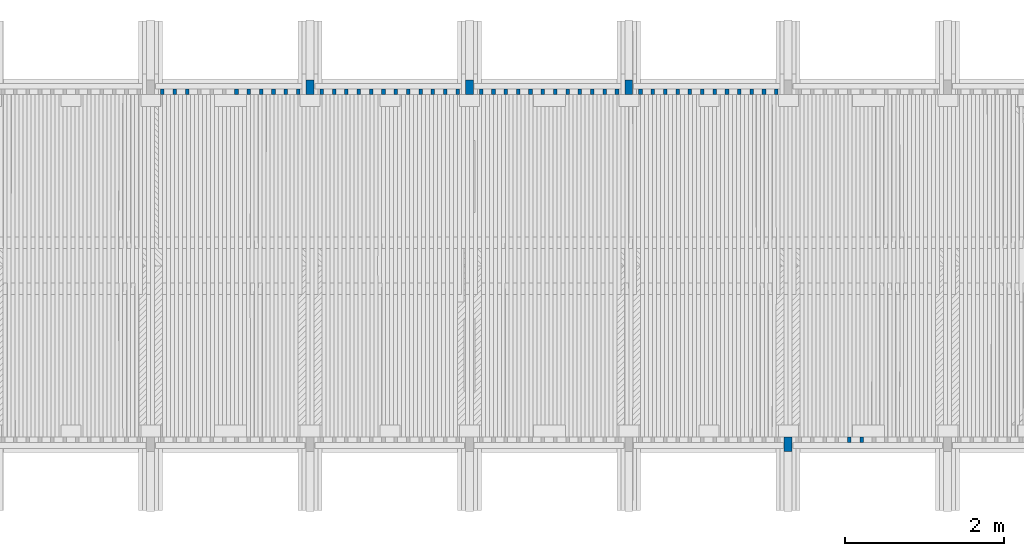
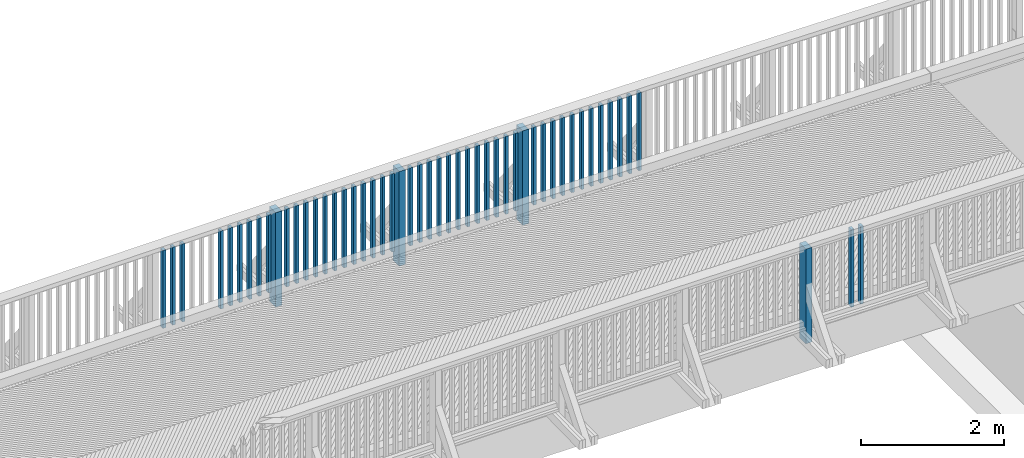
# One storey, part 9 of 53: 51 columns.
"""IFC2X3 building model written with IfcOpenShell, lengths in millimetres."""

from ifc_helpers import new_model, si_unit, frame, origin_with_axes, place, context, subcontext, project, spatial, faceted_brep, material, type_object, element, save


model = new_model("IFC2X3")

# Units and contexts
model_context = context("Model", 3, precision=1e-05, world=origin_with_axes())
body_context = subcontext(model_context, "Body", "Model", "MODEL_VIEW")
ifc_project = project(units=[si_unit("LENGTHUNIT", "METRE", prefix="MILLI"), si_unit("AREAUNIT", "SQUARE_METRE"), si_unit("VOLUMEUNIT", "CUBIC_METRE"), si_unit("MASSUNIT", "GRAM", prefix="KILO"), si_unit("TIMEUNIT", "SECOND"), si_unit("PLANEANGLEUNIT", "RADIAN"), si_unit("SOLIDANGLEUNIT", "STERADIAN"), si_unit("THERMODYNAMICTEMPERATUREUNIT", "DEGREE_CELSIUS"), si_unit("LUMINOUSINTENSITYUNIT", "LUMEN")], contexts=[model_context])

# Site, building, storey
site_placement = place(None, origin_with_axes())
site = spatial("IfcSite", under=ifc_project, at=site_placement, Name="Undefined", CompositionType="ELEMENT")
building_placement = place(site_placement, origin_with_axes())
building = spatial("IfcBuilding", under=site, at=building_placement, Name="Undefined", CompositionType="ELEMENT")
storey_placement = place(building_placement, origin_with_axes())
storey = spatial("IfcBuildingStorey", under=building, at=storey_placement, Name="Undefined", CompositionType="ELEMENT", Elevation=0.0)

# Columns
ifc_material = material(Name="TIMBER/Timber_Undefined")
column_type_1 = type_object("IfcColumnType", Name="180*100", PredefinedType="NOTDEFINED")
for number, where, z_axis, x_axis in (
    (1, (10000.0000678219, 44604.9879081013, 2939.97693042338), (0.0, -1.0, 0.0), (0.0, 0.0, 1.0)),
    (2, (8000.00006782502, 44604.9879081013, 2943.29124390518), (0.0, -1.0, 0.0), (0.0, 0.0, 1.0)),
    (3, (6000.00006782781, 44604.9879081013, 2939.97693031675), (0.0, -1.0, 0.0), (0.0, 0.0, 1.0)),
    (4, (12000.0000678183, 40125.0120918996, 2930.03388065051), (0.0, 1.0, 0.0), (0.0, 0.0, 1.0)),
):
    element("IfcColumn", number, at=place(storey_placement, frame(where, z_axis=z_axis, x_axis=x_axis)), inside=storey, type_object=column_type_1, material=ifc_material, Name="KAIDEPYLVÄS", ObjectType="180*100", context=body_context, shape_type="Brep", body=[
        faceted_brep([(0.0, 50.0, -89.9999999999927), (0.0, 50.0, 90.0), (1620.0, 50.0, 90.0), (1620.0, 50.0, -90.0), (0.0, -49.9999999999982, 90.0000000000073), (1620.0, -50.0, 90.0), (-3.63797880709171e-12, -49.9999999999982, -90.0), (1620.0, -50.0, -90.0)], [[[0, 1, 2, 3]], [[1, 4, 5, 2]], [[4, 6, 7, 5]], [[6, 0, 3, 7]], [[5, 7, 3, 2]], [[6, 4, 1, 0]]]),
    ])
column_type_2 = type_object("IfcColumnType", Name="70*45", PredefinedType="NOTDEFINED")
column_1_placement = place(storey_placement, frame((11852.5000007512, 44549.9879080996, 3109.68000000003), z_axis=(0.0, 1.0, 0.0), x_axis=(0.0, 0.0, 1.0)))
element("IfcColumn", 5, at=column_1_placement, inside=storey, type_object=column_type_2, material=ifc_material, Name="BEAM", ObjectType="70*45", context=body_context, shape_type="Brep", body=[
    faceted_brep([(105.745412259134, 22.5, -35.0), (105.745412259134, 22.5, 35.0), (1440.74637076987, 22.5, 35.0), (1440.74637076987, 22.5, -35.0), (105.980905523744, -22.5, 35.0), (1440.98186403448, -22.5, 35.0), (105.980905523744, -22.5, -35.0), (1440.98186403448, -22.5, -35.0)], [[[0, 1, 2, 3]], [[1, 4, 5, 2]], [[4, 6, 7, 5]], [[6, 0, 3, 7]], [[5, 7, 3, 2]], [[6, 4, 1, 0]]]),
])
column_2_placement = place(storey_placement, frame((11697.5000007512, 44549.9879080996, 3109.68000000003), z_axis=(0.0, 1.0, 0.0), x_axis=(0.0, 0.0, 1.0)))
element("IfcColumn", 6, at=column_2_placement, inside=storey, type_object=column_type_2, material=ifc_material, Name="BEAM", ObjectType="70*45", context=body_context, shape_type="Brep", body=[
    faceted_brep([(106.556555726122, 22.5, -35.0), (106.556555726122, 22.5, 35.0), (1441.55751423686, 22.5, 35.0), (1441.55751423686, 22.5, -35.0), (106.792048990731, -22.5, 35.0), (1441.79300750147, -22.5, 35.0), (106.792048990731, -22.5, -35.0), (1441.79300750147, -22.5, -35.0)], [[[0, 1, 2, 3]], [[1, 4, 5, 2]], [[4, 6, 7, 5]], [[6, 0, 3, 7]], [[5, 7, 3, 2]], [[6, 4, 1, 0]]]),
])
column_3_placement = place(storey_placement, frame((11542.5000007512, 44549.9879080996, 3109.68000000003), z_axis=(0.0, 1.0, 0.0), x_axis=(0.0, 0.0, 1.0)))
element("IfcColumn", 7, at=column_3_placement, inside=storey, type_object=column_type_2, material=ifc_material, Name="BEAM", ObjectType="70*45", context=body_context, shape_type="Brep", body=[
    faceted_brep([(107.36769919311, 22.5, -35.0), (107.36769919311, 22.5, 35.0), (1442.36865770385, 22.5, 35.0), (1442.36865770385, 22.5, -35.0), (107.603192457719, -22.5, 35.0), (1442.60415096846, -22.5, 35.0), (107.603192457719, -22.5, -35.0), (1442.60415096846, -22.5, -35.0)], [[[0, 1, 2, 3]], [[1, 4, 5, 2]], [[4, 6, 7, 5]], [[6, 0, 3, 7]], [[5, 7, 3, 2]], [[6, 4, 1, 0]]]),
])
column_4_placement = place(storey_placement, frame((11387.5000007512, 44549.9879080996, 3109.68000000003), z_axis=(0.0, 1.0, 0.0), x_axis=(0.0, 0.0, 1.0)))
element("IfcColumn", 8, at=column_4_placement, inside=storey, type_object=column_type_2, material=ifc_material, Name="BEAM", ObjectType="70*45", context=body_context, shape_type="Brep", body=[
    faceted_brep([(108.178842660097, 22.5, -35.0), (108.178842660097, 22.5, 35.0), (1443.17980117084, 22.5, 35.0), (1443.17980117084, 22.5, -35.0), (108.414335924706, -22.5, 35.0), (1443.41529443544, -22.5, 35.0), (108.414335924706, -22.5, -35.0), (1443.41529443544, -22.5, -35.0)], [[[0, 1, 2, 3]], [[1, 4, 5, 2]], [[4, 6, 7, 5]], [[6, 0, 3, 7]], [[5, 7, 3, 2]], [[6, 4, 1, 0]]]),
])
column_5_placement = place(storey_placement, frame((11232.5000007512, 44549.9879080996, 3109.68000000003), z_axis=(0.0, 1.0, 0.0), x_axis=(0.0, 0.0, 1.0)))
element("IfcColumn", 9, at=column_5_placement, inside=storey, type_object=column_type_2, material=ifc_material, Name="BEAM", ObjectType="70*45", context=body_context, shape_type="Brep", body=[
    faceted_brep([(108.989986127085, 22.5, -35.0), (108.989986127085, 22.5, 35.0), (1443.99094463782, 22.5, 35.0), (1443.99094463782, 22.5, -35.0), (109.225479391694, -22.5, 35.0), (1444.22643790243, -22.5, 35.0), (109.225479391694, -22.5, -35.0), (1444.22643790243, -22.5, -35.0)], [[[0, 1, 2, 3]], [[1, 4, 5, 2]], [[4, 6, 7, 5]], [[6, 0, 3, 7]], [[5, 7, 3, 2]], [[6, 4, 1, 0]]]),
])
column_6_placement = place(storey_placement, frame((11077.5000007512, 44549.9879080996, 3109.68000000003), z_axis=(0.0, 1.0, 0.0), x_axis=(0.0, 0.0, 1.0)))
element("IfcColumn", 10, at=column_6_placement, inside=storey, type_object=column_type_2, material=ifc_material, Name="BEAM", ObjectType="70*45", context=body_context, shape_type="Brep", body=[
    faceted_brep([(109.801129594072, 22.5, -35.0), (109.801129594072, 22.5, 35.0), (1444.80208810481, 22.5, 35.0), (1444.80208810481, 22.5, -35.0), (110.036622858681, -22.5, 35.0), (1445.03758136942, -22.5, 35.0), (110.036622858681, -22.5, -35.0), (1445.03758136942, -22.5, -35.0)], [[[0, 1, 2, 3]], [[1, 4, 5, 2]], [[4, 6, 7, 5]], [[6, 0, 3, 7]], [[5, 7, 3, 2]], [[6, 4, 1, 0]]]),
])
column_7_placement = place(storey_placement, frame((10922.5000007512, 44549.9879080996, 3109.68000000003), z_axis=(0.0, 1.0, 0.0), x_axis=(0.0, 0.0, 1.0)))
element("IfcColumn", 11, at=column_7_placement, inside=storey, type_object=column_type_2, material=ifc_material, Name="BEAM", ObjectType="70*45", context=body_context, shape_type="Brep", body=[
    faceted_brep([(110.61227306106, 22.5, -35.0), (110.61227306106, 22.5, 35.0), (1445.6132315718, 22.5, 35.0), (1445.6132315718, 22.5, -35.0), (110.847766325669, -22.5, 35.0), (1445.84872483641, -22.5, 35.0), (110.847766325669, -22.5, -35.0), (1445.84872483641, -22.5, -35.0)], [[[0, 1, 2, 3]], [[1, 4, 5, 2]], [[4, 6, 7, 5]], [[6, 0, 3, 7]], [[5, 7, 3, 2]], [[6, 4, 1, 0]]]),
])
column_8_placement = place(storey_placement, frame((10767.5000007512, 44549.9879080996, 3109.68000000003), z_axis=(0.0, 1.0, 0.0), x_axis=(0.0, 0.0, 1.0)))
element("IfcColumn", 12, at=column_8_placement, inside=storey, type_object=column_type_2, material=ifc_material, Name="BEAM", ObjectType="70*45", context=body_context, shape_type="Brep", body=[
    faceted_brep([(111.423416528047, 22.5, -35.0), (111.423416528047, 22.5, 35.0), (1446.42437503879, 22.5, 35.0), (1446.42437503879, 22.5, -35.0), (111.658909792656, -22.5, 35.0), (1446.65986830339, -22.5, 35.0), (111.658909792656, -22.5, -35.0), (1446.65986830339, -22.5, -35.0)], [[[0, 1, 2, 3]], [[1, 4, 5, 2]], [[4, 6, 7, 5]], [[6, 0, 3, 7]], [[5, 7, 3, 2]], [[6, 4, 1, 0]]]),
])
column_9_placement = place(storey_placement, frame((10612.5000007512, 44549.9879080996, 3109.68000000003), z_axis=(0.0, 1.0, 0.0), x_axis=(0.0, 0.0, 1.0)))
element("IfcColumn", 13, at=column_9_placement, inside=storey, type_object=column_type_2, material=ifc_material, Name="BEAM", ObjectType="70*45", context=body_context, shape_type="Brep", body=[
    faceted_brep([(112.234559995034, 22.5, -35.0), (112.234559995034, 22.5, 35.0), (1447.23551850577, 22.5, 35.0), (1447.23551850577, 22.5, -35.0), (112.470053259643, -22.5, 35.0), (1447.47101177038, -22.5, 35.0), (112.470053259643, -22.5, -35.0), (1447.47101177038, -22.5, -35.0)], [[[0, 1, 2, 3]], [[1, 4, 5, 2]], [[4, 6, 7, 5]], [[6, 0, 3, 7]], [[5, 7, 3, 2]], [[6, 4, 1, 0]]]),
])
column_10_placement = place(storey_placement, frame((10457.5000007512, 44549.9879080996, 3109.68000000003), z_axis=(0.0, 1.0, 0.0), x_axis=(0.0, 0.0, 1.0)))
element("IfcColumn", 14, at=column_10_placement, inside=storey, type_object=column_type_2, material=ifc_material, Name="BEAM", ObjectType="70*45", context=body_context, shape_type="Brep", body=[
    faceted_brep([(113.045703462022, 22.5, -35.0), (113.045703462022, 22.5, 35.0), (1448.04666197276, 22.5, 35.0), (1448.04666197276, 22.5, -35.0), (113.281196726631, -22.5, 35.0), (1448.28215523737, -22.5, 35.0), (113.281196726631, -22.5, -35.0), (1448.28215523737, -22.5, -35.0)], [[[0, 1, 2, 3]], [[1, 4, 5, 2]], [[4, 6, 7, 5]], [[6, 0, 3, 7]], [[5, 7, 3, 2]], [[6, 4, 1, 0]]]),
])
column_11_placement = place(storey_placement, frame((10302.5000007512, 44549.9879080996, 3109.68000000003), z_axis=(0.0, 1.0, 0.0), x_axis=(0.0, 0.0, 1.0)))
element("IfcColumn", 15, at=column_11_placement, inside=storey, type_object=column_type_2, material=ifc_material, Name="BEAM", ObjectType="70*45", context=body_context, shape_type="Brep", body=[
    faceted_brep([(113.856846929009, 22.5, -35.0), (113.856846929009, 22.5, 35.0), (1448.85780543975, 22.5, 35.0), (1448.85780543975, 22.5, -35.0), (114.092340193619, -22.5, 35.0), (1449.09329870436, -22.5, 35.0), (114.092340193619, -22.5, -35.0), (1449.09329870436, -22.5, -35.0)], [[[0, 1, 2, 3]], [[1, 4, 5, 2]], [[4, 6, 7, 5]], [[6, 0, 3, 7]], [[5, 7, 3, 2]], [[6, 4, 1, 0]]]),
])
column_12_placement = place(storey_placement, frame((10147.5000007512, 44549.9879080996, 3109.68000000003), z_axis=(0.0, 1.0, 0.0), x_axis=(0.0, 0.0, 1.0)))
element("IfcColumn", 16, at=column_12_placement, inside=storey, type_object=column_type_2, material=ifc_material, Name="BEAM", ObjectType="70*45", context=body_context, shape_type="Brep", body=[
    faceted_brep([(114.667990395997, 22.5, -35.0), (114.667990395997, 22.5, 35.0), (1449.66894890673, 22.5, 35.0), (1449.66894890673, 22.5, -35.0), (114.903483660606, -22.5, 35.0), (1449.90444217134, -22.5, 35.0), (114.903483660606, -22.5, -35.0), (1449.90444217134, -22.5, -35.0)], [[[0, 1, 2, 3]], [[1, 4, 5, 2]], [[4, 6, 7, 5]], [[6, 0, 3, 7]], [[5, 7, 3, 2]], [[6, 4, 1, 0]]]),
])
column_13_placement = place(storey_placement, frame((9852.50000075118, 44549.9879080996, 3109.68000000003), z_axis=(0.0, 1.0, 0.0), x_axis=(0.0, 0.0, 1.0)))
element("IfcColumn", 17, at=column_13_placement, inside=storey, type_object=column_type_2, material=ifc_material, Name="BEAM", ObjectType="70*45", context=body_context, shape_type="Brep", body=[
    faceted_brep([(115.427651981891, 22.5, -35.0), (115.427651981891, 22.5, 35.0), (1450.42775848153, 22.5, 35.0), (1450.42775848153, 22.5, -35.0), (115.506148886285, -22.5, 35.0), (1450.50625538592, -22.5, 35.0), (115.506148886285, -22.5, -35.0), (1450.50625538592, -22.5, -35.0)], [[[0, 1, 2, 3]], [[1, 4, 5, 2]], [[4, 6, 7, 5]], [[6, 0, 3, 7]], [[5, 7, 3, 2]], [[6, 4, 1, 0]]]),
])
column_14_placement = place(storey_placement, frame((9697.50000075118, 44549.9879080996, 3109.68000000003), z_axis=(0.0, 1.0, 0.0), x_axis=(0.0, 0.0, 1.0)))
element("IfcColumn", 18, at=column_14_placement, inside=storey, type_object=column_type_2, material=ifc_material, Name="BEAM", ObjectType="70*45", context=body_context, shape_type="Brep", body=[
    faceted_brep([(115.698030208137, 22.5, -35.0), (115.698030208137, 22.5, 35.0), (1450.69813670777, 22.5, 35.0), (1450.69813670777, 22.5, -35.0), (115.77652711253, -22.5, 35.0), (1450.77663361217, -22.5, 35.0), (115.77652711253, -22.5, -35.0), (1450.77663361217, -22.5, -35.0)], [[[0, 1, 2, 3]], [[1, 4, 5, 2]], [[4, 6, 7, 5]], [[6, 0, 3, 7]], [[5, 7, 3, 2]], [[6, 4, 1, 0]]]),
])
column_15_placement = place(storey_placement, frame((9542.50000075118, 44549.9879080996, 3109.68000000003), z_axis=(0.0, 1.0, 0.0), x_axis=(0.0, 0.0, 1.0)))
element("IfcColumn", 19, at=column_15_placement, inside=storey, type_object=column_type_2, material=ifc_material, Name="BEAM", ObjectType="70*45", context=body_context, shape_type="Brep", body=[
    faceted_brep([(115.968408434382, 22.5, -35.0), (115.968408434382, 22.5, 35.0), (1450.96851493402, 22.5, 35.0), (1450.96851493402, 22.5, -35.0), (116.046905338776, -22.5, 35.0), (1451.04701183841, -22.5, 35.0), (116.046905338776, -22.5, -35.0), (1451.04701183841, -22.5, -35.0)], [[[0, 1, 2, 3]], [[1, 4, 5, 2]], [[4, 6, 7, 5]], [[6, 0, 3, 7]], [[5, 7, 3, 2]], [[6, 4, 1, 0]]]),
])
column_16_placement = place(storey_placement, frame((9387.50000075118, 44549.9879080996, 3109.68000000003), z_axis=(0.0, 1.0, 0.0), x_axis=(0.0, 0.0, 1.0)))
element("IfcColumn", 20, at=column_16_placement, inside=storey, type_object=column_type_2, material=ifc_material, Name="BEAM", ObjectType="70*45", context=body_context, shape_type="Brep", body=[
    faceted_brep([(116.238786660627, 22.5, -35.0), (116.238786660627, 22.5, 35.0), (1451.23889316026, 22.5, 35.0), (1451.23889316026, 22.5, -35.0), (116.317283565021, -22.5, 35.0), (1451.31739006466, -22.5, 35.0), (116.317283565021, -22.5, -35.0), (1451.31739006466, -22.5, -35.0)], [[[0, 1, 2, 3]], [[1, 4, 5, 2]], [[4, 6, 7, 5]], [[6, 0, 3, 7]], [[5, 7, 3, 2]], [[6, 4, 1, 0]]]),
])
column_17_placement = place(storey_placement, frame((9232.50000075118, 44549.9879080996, 3109.68000000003), z_axis=(0.0, 1.0, 0.0), x_axis=(0.0, 0.0, 1.0)))
element("IfcColumn", 21, at=column_17_placement, inside=storey, type_object=column_type_2, material=ifc_material, Name="BEAM", ObjectType="70*45", context=body_context, shape_type="Brep", body=[
    faceted_brep([(116.509164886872, 22.5, -35.0), (116.509164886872, 22.5, 35.0), (1451.50927138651, 22.5, 35.0), (1451.50927138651, 22.5, -35.0), (116.587661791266, -22.5, 35.0), (1451.5877682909, -22.5, 35.0), (116.587661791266, -22.5, -35.0), (1451.5877682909, -22.5, -35.0)], [[[0, 1, 2, 3]], [[1, 4, 5, 2]], [[4, 6, 7, 5]], [[6, 0, 3, 7]], [[5, 7, 3, 2]], [[6, 4, 1, 0]]]),
])
column_18_placement = place(storey_placement, frame((9077.50000075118, 44549.9879080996, 3109.68000000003), z_axis=(0.0, 1.0, 0.0), x_axis=(0.0, 0.0, 1.0)))
element("IfcColumn", 22, at=column_18_placement, inside=storey, type_object=column_type_2, material=ifc_material, Name="BEAM", ObjectType="70*45", context=body_context, shape_type="Brep", body=[
    faceted_brep([(116.779543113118, 22.5, -35.0), (116.779543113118, 22.5, 35.0), (1451.77964961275, 22.5, 35.0), (1451.77964961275, 22.5, -35.0), (116.858040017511, -22.5, 35.0), (1451.85814651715, -22.5, 35.0), (116.858040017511, -22.5, -35.0), (1451.85814651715, -22.5, -35.0)], [[[0, 1, 2, 3]], [[1, 4, 5, 2]], [[4, 6, 7, 5]], [[6, 0, 3, 7]], [[5, 7, 3, 2]], [[6, 4, 1, 0]]]),
])
column_19_placement = place(storey_placement, frame((8922.50000075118, 44549.9879080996, 3109.68000000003), z_axis=(0.0, 1.0, 0.0), x_axis=(0.0, 0.0, 1.0)))
element("IfcColumn", 23, at=column_19_placement, inside=storey, type_object=column_type_2, material=ifc_material, Name="BEAM", ObjectType="70*45", context=body_context, shape_type="Brep", body=[
    faceted_brep([(117.049921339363, 22.5, -35.0), (117.049921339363, 22.5, 35.0), (1452.050027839, 22.5, 35.0), (1452.050027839, 22.5, -35.0), (117.128418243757, -22.5, 35.0), (1452.12852474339, -22.5, 35.0), (117.128418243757, -22.5, -35.0), (1452.12852474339, -22.5, -35.0)], [[[0, 1, 2, 3]], [[1, 4, 5, 2]], [[4, 6, 7, 5]], [[6, 0, 3, 7]], [[5, 7, 3, 2]], [[6, 4, 1, 0]]]),
])
column_20_placement = place(storey_placement, frame((8767.50000075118, 44549.9879080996, 3109.68000000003), z_axis=(0.0, 1.0, 0.0), x_axis=(0.0, 0.0, 1.0)))
element("IfcColumn", 24, at=column_20_placement, inside=storey, type_object=column_type_2, material=ifc_material, Name="BEAM", ObjectType="70*45", context=body_context, shape_type="Brep", body=[
    faceted_brep([(117.320299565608, 22.5, -35.0), (117.320299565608, 22.5, 35.0), (1452.32040606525, 22.5, 35.0), (1452.32040606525, 22.5, -35.0), (117.398796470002, -22.5, 35.0), (1452.39890296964, -22.5, 35.0), (117.398796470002, -22.5, -35.0), (1452.39890296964, -22.5, -35.0)], [[[0, 1, 2, 3]], [[1, 4, 5, 2]], [[4, 6, 7, 5]], [[6, 0, 3, 7]], [[5, 7, 3, 2]], [[6, 4, 1, 0]]]),
])
column_21_placement = place(storey_placement, frame((8612.50000075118, 44549.9879080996, 3109.68000000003), z_axis=(0.0, 1.0, 0.0), x_axis=(0.0, 0.0, 1.0)))
element("IfcColumn", 25, at=column_21_placement, inside=storey, type_object=column_type_2, material=ifc_material, Name="BEAM", ObjectType="70*45", context=body_context, shape_type="Brep", body=[
    faceted_brep([(117.590677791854, 22.5, -35.0), (117.590677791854, 22.5, 35.0), (1452.59078429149, 22.5, 35.0), (1452.59078429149, 22.5, -35.0), (117.669174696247, -22.5, 35.0), (1452.66928119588, -22.5, 35.0), (117.669174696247, -22.5, -35.0), (1452.66928119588, -22.5, -35.0)], [[[0, 1, 2, 3]], [[1, 4, 5, 2]], [[4, 6, 7, 5]], [[6, 0, 3, 7]], [[5, 7, 3, 2]], [[6, 4, 1, 0]]]),
])
column_22_placement = place(storey_placement, frame((8457.50000075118, 44549.9879080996, 3109.68000000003), z_axis=(0.0, 1.0, 0.0), x_axis=(0.0, 0.0, 1.0)))
element("IfcColumn", 26, at=column_22_placement, inside=storey, type_object=column_type_2, material=ifc_material, Name="BEAM", ObjectType="70*45", context=body_context, shape_type="Brep", body=[
    faceted_brep([(117.861056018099, 22.5, -35.0), (117.861056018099, 22.5, 35.0), (1452.86116251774, 22.5, 35.0), (1452.86116251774, 22.5, -35.0), (117.939552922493, -22.5, 35.0), (1452.93965942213, -22.5, 35.0), (117.939552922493, -22.5, -35.0), (1452.93965942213, -22.5, -35.0)], [[[0, 1, 2, 3]], [[1, 4, 5, 2]], [[4, 6, 7, 5]], [[6, 0, 3, 7]], [[5, 7, 3, 2]], [[6, 4, 1, 0]]]),
])
column_23_placement = place(storey_placement, frame((8302.50000075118, 44549.9879080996, 3109.68000000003), z_axis=(0.0, 1.0, 0.0), x_axis=(0.0, 0.0, 1.0)))
element("IfcColumn", 27, at=column_23_placement, inside=storey, type_object=column_type_2, material=ifc_material, Name="BEAM", ObjectType="70*45", context=body_context, shape_type="Brep", body=[
    faceted_brep([(118.131434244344, 22.5, -35.0), (118.131434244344, 22.5, 35.0), (1453.13154074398, 22.5, 35.0), (1453.13154074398, 22.5, -35.0), (118.209931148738, -22.5, 35.0), (1453.21003764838, -22.5, 35.0), (118.209931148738, -22.5, -35.0), (1453.21003764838, -22.5, -35.0)], [[[0, 1, 2, 3]], [[1, 4, 5, 2]], [[4, 6, 7, 5]], [[6, 0, 3, 7]], [[5, 7, 3, 2]], [[6, 4, 1, 0]]]),
])
column_24_placement = place(storey_placement, frame((8147.50000075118, 44549.9879080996, 3109.68000000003), z_axis=(0.0, 1.0, 0.0), x_axis=(0.0, 0.0, 1.0)))
element("IfcColumn", 28, at=column_24_placement, inside=storey, type_object=column_type_2, material=ifc_material, Name="BEAM", ObjectType="70*45", context=body_context, shape_type="Brep", body=[
    faceted_brep([(118.401812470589, 22.5, -35.0), (118.401812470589, 22.5, 35.0), (1453.40191897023, 22.5, 35.0), (1453.40191897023, 22.5, -35.0), (118.480309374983, -22.5, 35.0), (1453.48041587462, -22.5, 35.0), (118.480309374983, -22.5, -35.0), (1453.48041587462, -22.5, -35.0)], [[[0, 1, 2, 3]], [[1, 4, 5, 2]], [[4, 6, 7, 5]], [[6, 0, 3, 7]], [[5, 7, 3, 2]], [[6, 4, 1, 0]]]),
])
column_25_placement = place(storey_placement, frame((7852.50000075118, 44549.9879080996, 3109.68000000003), z_axis=(0.0, 1.0, 0.0), x_axis=(0.0, 0.0, 1.0)))
element("IfcColumn", 29, at=column_25_placement, inside=storey, type_object=column_type_2, material=ifc_material, Name="BEAM", ObjectType="70*45", context=body_context, shape_type="Brep", body=[
    faceted_brep([(118.480309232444, 22.5, -35.0), (118.480309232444, 22.5, 35.0), (1453.48041573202, 22.5, 35.0), (1453.48041573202, 22.5, -35.0), (118.40181232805, -22.5, 35.0), (1453.40191882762, -22.5, 35.0), (118.40181232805, -22.5, -35.0), (1453.40191882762, -22.5, -35.0)], [[[0, 1, 2, 3]], [[1, 4, 5, 2]], [[4, 6, 7, 5]], [[6, 0, 3, 7]], [[5, 7, 3, 2]], [[6, 4, 1, 0]]]),
])
column_26_placement = place(storey_placement, frame((7697.50000075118, 44549.9879080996, 3109.68000000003), z_axis=(0.0, 1.0, 0.0), x_axis=(0.0, 0.0, 1.0)))
element("IfcColumn", 30, at=column_26_placement, inside=storey, type_object=column_type_2, material=ifc_material, Name="BEAM", ObjectType="70*45", context=body_context, shape_type="Brep", body=[
    faceted_brep([(118.209931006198, 22.5, -35.0), (118.209931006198, 22.5, 35.0), (1453.21003750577, 22.5, 35.0), (1453.21003750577, 22.5, -35.0), (118.131434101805, -22.5, 35.0), (1453.13154060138, -22.5, 35.0), (118.131434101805, -22.5, -35.0), (1453.13154060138, -22.5, -35.0)], [[[0, 1, 2, 3]], [[1, 4, 5, 2]], [[4, 6, 7, 5]], [[6, 0, 3, 7]], [[5, 7, 3, 2]], [[6, 4, 1, 0]]]),
])
column_27_placement = place(storey_placement, frame((7542.50000075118, 44549.9879080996, 3109.68000000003), z_axis=(0.0, 1.0, 0.0), x_axis=(0.0, 0.0, 1.0)))
element("IfcColumn", 31, at=column_27_placement, inside=storey, type_object=column_type_2, material=ifc_material, Name="BEAM", ObjectType="70*45", context=body_context, shape_type="Brep", body=[
    faceted_brep([(117.939552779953, 22.5, -35.0), (117.939552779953, 22.5, 35.0), (1452.93965927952, 22.5, 35.0), (1452.93965927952, 22.5, -35.0), (117.861055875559, -22.5, 35.0), (1452.86116237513, -22.5, 35.0), (117.861055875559, -22.5, -35.0), (1452.86116237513, -22.5, -35.0)], [[[0, 1, 2, 3]], [[1, 4, 5, 2]], [[4, 6, 7, 5]], [[6, 0, 3, 7]], [[5, 7, 3, 2]], [[6, 4, 1, 0]]]),
])
column_28_placement = place(storey_placement, frame((7387.50000075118, 44549.9879080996, 3109.68000000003), z_axis=(0.0, 1.0, 0.0), x_axis=(0.0, 0.0, 1.0)))
element("IfcColumn", 32, at=column_28_placement, inside=storey, type_object=column_type_2, material=ifc_material, Name="BEAM", ObjectType="70*45", context=body_context, shape_type="Brep", body=[
    faceted_brep([(117.669174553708, 22.5, -35.0), (117.669174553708, 22.5, 35.0), (1452.66928105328, 22.5, 35.0), (1452.66928105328, 22.5, -35.0), (117.590677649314, -22.5, 35.0), (1452.59078414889, -22.5, 35.0), (117.590677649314, -22.5, -35.0), (1452.59078414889, -22.5, -35.0)], [[[0, 1, 2, 3]], [[1, 4, 5, 2]], [[4, 6, 7, 5]], [[6, 0, 3, 7]], [[5, 7, 3, 2]], [[6, 4, 1, 0]]]),
])
column_29_placement = place(storey_placement, frame((7232.50000075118, 44549.9879080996, 3109.68000000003), z_axis=(0.0, 1.0, 0.0), x_axis=(0.0, 0.0, 1.0)))
element("IfcColumn", 33, at=column_29_placement, inside=storey, type_object=column_type_2, material=ifc_material, Name="BEAM", ObjectType="70*45", context=body_context, shape_type="Brep", body=[
    faceted_brep([(117.398796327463, 22.5, -35.0), (117.398796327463, 22.5, 35.0), (1452.39890282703, 22.5, 35.0), (1452.39890282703, 22.5, -35.0), (117.320299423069, -22.5, 35.0), (1452.32040592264, -22.5, 35.0), (117.320299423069, -22.5, -35.0), (1452.32040592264, -22.5, -35.0)], [[[0, 1, 2, 3]], [[1, 4, 5, 2]], [[4, 6, 7, 5]], [[6, 0, 3, 7]], [[5, 7, 3, 2]], [[6, 4, 1, 0]]]),
])
column_30_placement = place(storey_placement, frame((7077.50000075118, 44549.9879080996, 3109.68000000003), z_axis=(0.0, 1.0, 0.0), x_axis=(0.0, 0.0, 1.0)))
element("IfcColumn", 34, at=column_30_placement, inside=storey, type_object=column_type_2, material=ifc_material, Name="BEAM", ObjectType="70*45", context=body_context, shape_type="Brep", body=[
    faceted_brep([(117.128418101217, 22.5, -35.0), (117.128418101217, 22.5, 35.0), (1452.12852460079, 22.5, 35.0), (1452.12852460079, 22.5, -35.0), (117.049921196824, -22.5, 35.0), (1452.05002769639, -22.5, 35.0), (117.049921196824, -22.5, -35.0), (1452.05002769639, -22.5, -35.0)], [[[0, 1, 2, 3]], [[1, 4, 5, 2]], [[4, 6, 7, 5]], [[6, 0, 3, 7]], [[5, 7, 3, 2]], [[6, 4, 1, 0]]]),
])
column_31_placement = place(storey_placement, frame((6922.50000075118, 44549.9879080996, 3109.68000000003), z_axis=(0.0, 1.0, 0.0), x_axis=(0.0, 0.0, 1.0)))
element("IfcColumn", 35, at=column_31_placement, inside=storey, type_object=column_type_2, material=ifc_material, Name="BEAM", ObjectType="70*45", context=body_context, shape_type="Brep", body=[
    faceted_brep([(116.858039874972, 22.5, -35.0), (116.858039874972, 22.5, 35.0), (1451.85814637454, 22.5, 35.0), (1451.85814637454, 22.5, -35.0), (116.779542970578, -22.5, 35.0), (1451.77964947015, -22.5, 35.0), (116.779542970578, -22.5, -35.0), (1451.77964947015, -22.5, -35.0)], [[[0, 1, 2, 3]], [[1, 4, 5, 2]], [[4, 6, 7, 5]], [[6, 0, 3, 7]], [[5, 7, 3, 2]], [[6, 4, 1, 0]]]),
])
column_32_placement = place(storey_placement, frame((6767.50000075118, 44549.9879080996, 3109.68000000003), z_axis=(0.0, 1.0, 0.0), x_axis=(0.0, 0.0, 1.0)))
element("IfcColumn", 36, at=column_32_placement, inside=storey, type_object=column_type_2, material=ifc_material, Name="BEAM", ObjectType="70*45", context=body_context, shape_type="Brep", body=[
    faceted_brep([(116.587661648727, 22.5, -35.0), (116.587661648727, 22.5, 35.0), (1451.5877681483, 22.5, 35.0), (1451.5877681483, 22.5, -35.0), (116.509164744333, -22.5, 35.0), (1451.5092712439, -22.5, 35.0), (116.509164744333, -22.5, -35.0), (1451.5092712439, -22.5, -35.0)], [[[0, 1, 2, 3]], [[1, 4, 5, 2]], [[4, 6, 7, 5]], [[6, 0, 3, 7]], [[5, 7, 3, 2]], [[6, 4, 1, 0]]]),
])
column_33_placement = place(storey_placement, frame((6612.50000075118, 44549.9879080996, 3109.68000000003), z_axis=(0.0, 1.0, 0.0), x_axis=(0.0, 0.0, 1.0)))
element("IfcColumn", 37, at=column_33_placement, inside=storey, type_object=column_type_2, material=ifc_material, Name="BEAM", ObjectType="70*45", context=body_context, shape_type="Brep", body=[
    faceted_brep([(116.317283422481, 22.5, -35.0), (116.317283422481, 22.5, 35.0), (1451.31738992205, 22.5, 35.0), (1451.31738992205, 22.5, -35.0), (116.238786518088, -22.5, 35.0), (1451.23889301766, -22.5, 35.0), (116.238786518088, -22.5, -35.0), (1451.23889301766, -22.5, -35.0)], [[[0, 1, 2, 3]], [[1, 4, 5, 2]], [[4, 6, 7, 5]], [[6, 0, 3, 7]], [[5, 7, 3, 2]], [[6, 4, 1, 0]]]),
])
column_34_placement = place(storey_placement, frame((6457.50000075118, 44549.9879080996, 3109.68000000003), z_axis=(0.0, 1.0, 0.0), x_axis=(0.0, 0.0, 1.0)))
element("IfcColumn", 38, at=column_34_placement, inside=storey, type_object=column_type_2, material=ifc_material, Name="BEAM", ObjectType="70*45", context=body_context, shape_type="Brep", body=[
    faceted_brep([(116.046905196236, 22.5, -35.0), (116.046905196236, 22.5, 35.0), (1451.04701169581, 22.5, 35.0), (1451.04701169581, 22.5, -35.0), (115.968408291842, -22.5, 35.0), (1450.96851479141, -22.5, 35.0), (115.968408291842, -22.5, -35.0), (1450.96851479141, -22.5, -35.0)], [[[0, 1, 2, 3]], [[1, 4, 5, 2]], [[4, 6, 7, 5]], [[6, 0, 3, 7]], [[5, 7, 3, 2]], [[6, 4, 1, 0]]]),
])
column_35_placement = place(storey_placement, frame((6302.50000075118, 44549.9879080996, 3109.68000000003), z_axis=(0.0, 1.0, 0.0), x_axis=(0.0, 0.0, 1.0)))
element("IfcColumn", 39, at=column_35_placement, inside=storey, type_object=column_type_2, material=ifc_material, Name="BEAM", ObjectType="70*45", context=body_context, shape_type="Brep", body=[
    faceted_brep([(115.776526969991, 22.5, -35.0), (115.776526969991, 22.5, 35.0), (1450.77663346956, 22.5, 35.0), (1450.77663346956, 22.5, -35.0), (115.698030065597, -22.5, 35.0), (1450.69813656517, -22.5, 35.0), (115.698030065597, -22.5, -35.0), (1450.69813656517, -22.5, -35.0)], [[[0, 1, 2, 3]], [[1, 4, 5, 2]], [[4, 6, 7, 5]], [[6, 0, 3, 7]], [[5, 7, 3, 2]], [[6, 4, 1, 0]]]),
])
column_36_placement = place(storey_placement, frame((6147.50000075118, 44549.9879080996, 3109.68000000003), z_axis=(0.0, 1.0, 0.0), x_axis=(0.0, 0.0, 1.0)))
element("IfcColumn", 40, at=column_36_placement, inside=storey, type_object=column_type_2, material=ifc_material, Name="BEAM", ObjectType="70*45", context=body_context, shape_type="Brep", body=[
    faceted_brep([(115.506148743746, 22.5, -35.0), (115.506148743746, 22.5, 35.0), (1450.50625524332, 22.5, 35.0), (1450.50625524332, 22.5, -35.0), (115.427651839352, -22.5, 35.0), (1450.42775833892, -22.5, 35.0), (115.427651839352, -22.5, -35.0), (1450.42775833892, -22.5, -35.0)], [[[0, 1, 2, 3]], [[1, 4, 5, 2]], [[4, 6, 7, 5]], [[6, 0, 3, 7]], [[5, 7, 3, 2]], [[6, 4, 1, 0]]]),
])
column_37_placement = place(storey_placement, frame((5852.50000075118, 44549.9879080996, 3109.68000000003), z_axis=(0.0, 1.0, 0.0), x_axis=(0.0, 0.0, 1.0)))
element("IfcColumn", 41, at=column_37_placement, inside=storey, type_object=column_type_2, material=ifc_material, Name="BEAM", ObjectType="70*45", context=body_context, shape_type="Brep", body=[
    faceted_brep([(114.903481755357, 22.5, -35.0), (114.903481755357, 22.5, 35.0), (1449.90444026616, 22.5, 35.0), (1449.90444026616, 22.5, -35.0), (114.667988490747, -22.5, 35.0), (1449.66894700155, -22.5, 35.0), (114.667988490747, -22.5, -35.0), (1449.66894700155, -22.5, -35.0)], [[[0, 1, 2, 3]], [[1, 4, 5, 2]], [[4, 6, 7, 5]], [[6, 0, 3, 7]], [[5, 7, 3, 2]], [[6, 4, 1, 0]]]),
])
column_38_placement = place(storey_placement, frame((5697.50000075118, 44549.9879080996, 3109.68000000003), z_axis=(0.0, 1.0, 0.0), x_axis=(0.0, 0.0, 1.0)))
element("IfcColumn", 42, at=column_38_placement, inside=storey, type_object=column_type_2, material=ifc_material, Name="BEAM", ObjectType="70*45", context=body_context, shape_type="Brep", body=[
    faceted_brep([(114.092338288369, 22.5, -35.0), (114.092338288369, 22.5, 35.0), (1449.09329679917, 22.5, 35.0), (1449.09329679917, 22.5, -35.0), (113.85684502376, -22.5, 35.0), (1448.85780353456, -22.5, 35.0), (113.85684502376, -22.5, -35.0), (1448.85780353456, -22.5, -35.0)], [[[0, 1, 2, 3]], [[1, 4, 5, 2]], [[4, 6, 7, 5]], [[6, 0, 3, 7]], [[5, 7, 3, 2]], [[6, 4, 1, 0]]]),
])
column_39_placement = place(storey_placement, frame((5542.50000075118, 44549.9879080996, 3109.68000000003), z_axis=(0.0, 1.0, 0.0), x_axis=(0.0, 0.0, 1.0)))
element("IfcColumn", 43, at=column_39_placement, inside=storey, type_object=column_type_2, material=ifc_material, Name="BEAM", ObjectType="70*45", context=body_context, shape_type="Brep", body=[
    faceted_brep([(113.281194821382, 22.5, -35.0), (113.281194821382, 22.5, 35.0), (1448.28215333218, 22.5, 35.0), (1448.28215333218, 22.5, -35.0), (113.045701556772, -22.5, 35.0), (1448.04666006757, -22.5, 35.0), (113.045701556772, -22.5, -35.0), (1448.04666006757, -22.5, -35.0)], [[[0, 1, 2, 3]], [[1, 4, 5, 2]], [[4, 6, 7, 5]], [[6, 0, 3, 7]], [[5, 7, 3, 2]], [[6, 4, 1, 0]]]),
])
column_40_placement = place(storey_placement, frame((5387.50000075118, 44549.9879080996, 3109.68000000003), z_axis=(0.0, 1.0, 0.0), x_axis=(0.0, 0.0, 1.0)))
element("IfcColumn", 44, at=column_40_placement, inside=storey, type_object=column_type_2, material=ifc_material, Name="BEAM", ObjectType="70*45", context=body_context, shape_type="Brep", body=[
    faceted_brep([(112.470051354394, 22.5, -35.0), (112.470051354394, 22.5, 35.0), (1447.47100986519, 22.5, 35.0), (1447.47100986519, 22.5, -35.0), (112.234558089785, -22.5, 35.0), (1447.23551660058, -22.5, 35.0), (112.234558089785, -22.5, -35.0), (1447.23551660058, -22.5, -35.0)], [[[0, 1, 2, 3]], [[1, 4, 5, 2]], [[4, 6, 7, 5]], [[6, 0, 3, 7]], [[5, 7, 3, 2]], [[6, 4, 1, 0]]]),
])
column_41_placement = place(storey_placement, frame((5232.50000075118, 44549.9879080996, 3109.68000000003), z_axis=(0.0, 1.0, 0.0), x_axis=(0.0, 0.0, 1.0)))
element("IfcColumn", 45, at=column_41_placement, inside=storey, type_object=column_type_2, material=ifc_material, Name="BEAM", ObjectType="70*45", context=body_context, shape_type="Brep", body=[
    faceted_brep([(111.658907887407, 22.5, -35.0), (111.658907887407, 22.5, 35.0), (1446.65986639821, 22.5, 35.0), (1446.65986639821, 22.5, -35.0), (111.423414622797, -22.5, 35.0), (1446.4243731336, -22.5, 35.0), (111.423414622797, -22.5, -35.0), (1446.4243731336, -22.5, -35.0)], [[[0, 1, 2, 3]], [[1, 4, 5, 2]], [[4, 6, 7, 5]], [[6, 0, 3, 7]], [[5, 7, 3, 2]], [[6, 4, 1, 0]]]),
])
column_42_placement = place(storey_placement, frame((5077.50000075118, 44549.9879080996, 3109.68000000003), z_axis=(0.0, 1.0, 0.0), x_axis=(0.0, 0.0, 1.0)))
element("IfcColumn", 46, at=column_42_placement, inside=storey, type_object=column_type_2, material=ifc_material, Name="BEAM", ObjectType="70*45", context=body_context, shape_type="Brep", body=[
    faceted_brep([(110.847764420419, 22.5, -35.0), (110.847764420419, 22.5, 35.0), (1445.84872293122, 22.5, 35.0), (1445.84872293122, 22.5, -35.0), (110.61227115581, -22.5, 35.0), (1445.61322966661, -22.5, 35.0), (110.61227115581, -22.5, -35.0), (1445.61322966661, -22.5, -35.0)], [[[0, 1, 2, 3]], [[1, 4, 5, 2]], [[4, 6, 7, 5]], [[6, 0, 3, 7]], [[5, 7, 3, 2]], [[6, 4, 1, 0]]]),
])
column_43_placement = place(storey_placement, frame((4457.50000075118, 44549.9879080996, 3109.68000000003), z_axis=(0.0, 1.0, 0.0), x_axis=(0.0, 0.0, 1.0)))
element("IfcColumn", 47, at=column_43_placement, inside=storey, type_object=column_type_2, material=ifc_material, Name="BEAM", ObjectType="70*45", context=body_context, shape_type="Brep", body=[
    faceted_brep([(107.603190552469, 22.5, -35.0), (107.603190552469, 22.5, 35.0), (1442.60414906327, 22.5, 35.0), (1442.60414906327, 22.5, -35.0), (107.36769728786, -22.5, 35.0), (1442.36865579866, -22.5, 35.0), (107.36769728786, -22.5, -35.0), (1442.36865579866, -22.5, -35.0)], [[[0, 1, 2, 3]], [[1, 4, 5, 2]], [[4, 6, 7, 5]], [[6, 0, 3, 7]], [[5, 7, 3, 2]], [[6, 4, 1, 0]]]),
])
column_44_placement = place(storey_placement, frame((4302.50000075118, 44549.9879080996, 3109.68000000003), z_axis=(0.0, 1.0, 0.0), x_axis=(0.0, 0.0, 1.0)))
element("IfcColumn", 48, at=column_44_placement, inside=storey, type_object=column_type_2, material=ifc_material, Name="BEAM", ObjectType="70*45", context=body_context, shape_type="Brep", body=[
    faceted_brep([(106.792047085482, 22.5, -35.0), (106.792047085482, 22.5, 35.0), (1441.79300559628, 22.5, 35.0), (1441.79300559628, 22.5, -35.0), (106.556553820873, -22.5, 35.0), (1441.55751233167, -22.5, 35.0), (106.556553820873, -22.5, -35.0), (1441.55751233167, -22.5, -35.0)], [[[0, 1, 2, 3]], [[1, 4, 5, 2]], [[4, 6, 7, 5]], [[6, 0, 3, 7]], [[5, 7, 3, 2]], [[6, 4, 1, 0]]]),
])
column_45_placement = place(storey_placement, frame((4147.50000075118, 44549.9879080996, 3109.68000000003), z_axis=(0.0, 1.0, 0.0), x_axis=(0.0, 0.0, 1.0)))
element("IfcColumn", 49, at=column_45_placement, inside=storey, type_object=column_type_2, material=ifc_material, Name="BEAM", ObjectType="70*45", context=body_context, shape_type="Brep", body=[
    faceted_brep([(105.980903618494, 22.5, -35.0), (105.980903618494, 22.5, 35.0), (1440.98186212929, 22.5, 35.0), (1440.98186212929, 22.5, -35.0), (105.745410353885, -22.5, 35.0), (1440.74636886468, -22.5, 35.0), (105.745410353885, -22.5, -35.0), (1440.74636886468, -22.5, -35.0)], [[[0, 1, 2, 3]], [[1, 4, 5, 2]], [[4, 6, 7, 5]], [[6, 0, 3, 7]], [[5, 7, 3, 2]], [[6, 4, 1, 0]]]),
])
column_46_placement = place(storey_placement, frame((12922.5000007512, 40180.0120919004, 3109.68000000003), z_axis=(0.0, -1.0, 0.0), x_axis=(0.0, 0.0, 1.0)))
element("IfcColumn", 50, at=column_46_placement, inside=storey, type_object=column_type_2, material=ifc_material, Name="BEAM", ObjectType="70*45", context=body_context, shape_type="Brep", body=[
    faceted_brep([(97.9373784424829, 22.5, -35.0), (97.9373784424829, 22.5, 35.0), (1432.94003917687, 22.5, 35.0), (1432.94003917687, 22.5, -35.0), (97.5448810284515, -22.5, 35.0), (1432.54754176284, -22.5, 35.0), (97.5448810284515, -22.5, -35.0), (1432.54754176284, -22.5, -35.0)], [[[0, 1, 2, 3]], [[1, 4, 5, 2]], [[4, 6, 7, 5]], [[6, 0, 3, 7]], [[5, 7, 3, 2]], [[6, 4, 1, 0]]]),
])
column_47_placement = place(storey_placement, frame((12767.5000007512, 40180.0120919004, 3109.68000000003), z_axis=(0.0, -1.0, 0.0), x_axis=(0.0, 0.0, 1.0)))
element("IfcColumn", 51, at=column_47_placement, inside=storey, type_object=column_type_2, material=ifc_material, Name="BEAM", ObjectType="70*45", context=body_context, shape_type="Brep", body=[
    faceted_brep([(99.2893139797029, 22.5, -35.0), (99.2893139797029, 22.5, 35.0), (1434.29197471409, 22.5, 35.0), (1434.29197471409, 22.5, -35.0), (98.8968165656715, -22.5, 35.0), (1433.89947730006, -22.5, 35.0), (98.8968165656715, -22.5, -35.0), (1433.89947730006, -22.5, -35.0)], [[[0, 1, 2, 3]], [[1, 4, 5, 2]], [[4, 6, 7, 5]], [[6, 0, 3, 7]], [[5, 7, 3, 2]], [[6, 4, 1, 0]]]),
])

save(model, "model.ifc")
